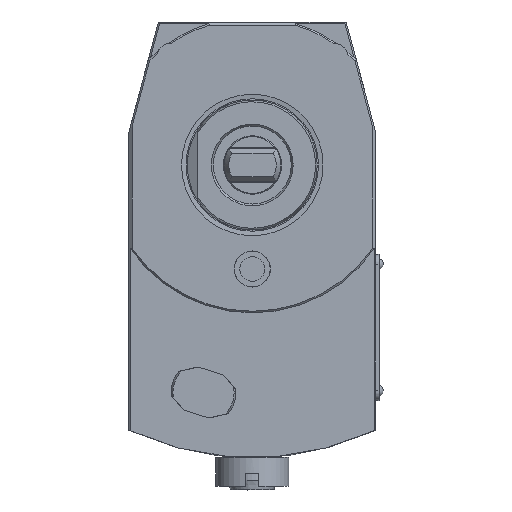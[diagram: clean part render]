
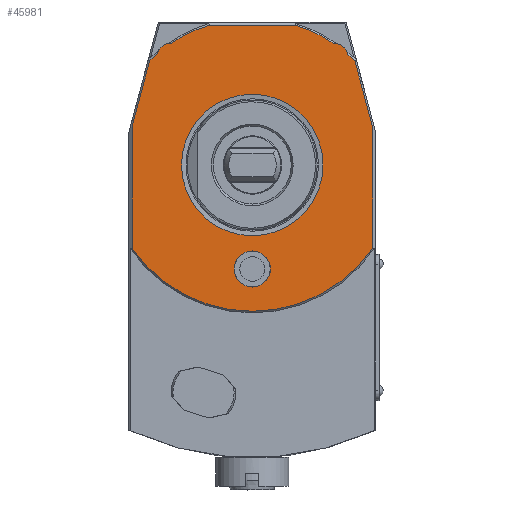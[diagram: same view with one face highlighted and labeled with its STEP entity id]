
A CAD part, left-side view. The second image highlights one B-rep face of the part: STEP entity #45981.
In plain terms, the highlighted planar face has unit normal (-1, 0, 0) as drawn and (0, 1, 0) by its records, which use the part's own axes.
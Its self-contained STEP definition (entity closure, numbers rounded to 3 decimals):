
#19673=PLANE('',#44325);
#20066=CIRCLE('',#44318,45.);
#20069=CIRCLE('',#44323,45.);
#20070=CIRCLE('',#44326,4.5);
#20071=CIRCLE('',#44327,45.);
#20072=CIRCLE('',#44328,4.5);
#20073=CIRCLE('',#44329,45.);
#20074=CIRCLE('',#44330,45.);
#20075=CIRCLE('',#44331,5.55);
#20076=CIRCLE('',#44332,21.765);
#20918=ORIENTED_EDGE('',*,*,#27728,.F.);
#20919=ORIENTED_EDGE('',*,*,#27729,.F.);
#20920=ORIENTED_EDGE('',*,*,#27730,.F.);
#20921=ORIENTED_EDGE('',*,*,#27725,.F.);
#20922=ORIENTED_EDGE('',*,*,#27731,.F.);
#20923=ORIENTED_EDGE('',*,*,#27719,.F.);
#20924=ORIENTED_EDGE('',*,*,#27732,.F.);
#20925=ORIENTED_EDGE('',*,*,#27708,.F.);
#20926=ORIENTED_EDGE('',*,*,#27733,.F.);
#20927=ORIENTED_EDGE('',*,*,#27734,.F.);
#20928=ORIENTED_EDGE('',*,*,#27735,.F.);
#20929=ORIENTED_EDGE('',*,*,#27736,.F.);
#20930=ORIENTED_EDGE('',*,*,#27737,.T.);
#20931=ORIENTED_EDGE('',*,*,#27738,.F.);
#24541=VECTOR('',#31413,1.);
#24550=VECTOR('',#31454,1.);
#24551=VECTOR('',#31457,1.);
#24552=VECTOR('',#31460,1.);
#24553=VECTOR('',#31461,1.);
#25477=LINE('',#35473,#24541);
#25486=LINE('',#35547,#24550);
#25487=LINE('',#35549,#24551);
#25488=LINE('',#35553,#24552);
#25489=LINE('',#35555,#24553);
#26418=VERTEX_POINT('',#35470);
#26419=VERTEX_POINT('',#35472);
#26427=VERTEX_POINT('',#35492);
#26428=VERTEX_POINT('',#35494);
#26432=VERTEX_POINT('',#35521);
#26433=VERTEX_POINT('',#35522);
#26434=VERTEX_POINT('',#35542);
#26435=VERTEX_POINT('',#35543);
#26436=VERTEX_POINT('',#35545);
#26437=VERTEX_POINT('',#35550);
#26438=VERTEX_POINT('',#35552);
#26439=VERTEX_POINT('',#35554);
#26440=VERTEX_POINT('',#35557);
#26441=VERTEX_POINT('',#35559);
#27708=EDGE_CURVE('',#26418,#26419,#25477,.T.);
#27719=EDGE_CURVE('',#26427,#26428,#20066,.T.);
#27725=EDGE_CURVE('',#26432,#26433,#20069,.T.);
#27728=EDGE_CURVE('',#26434,#26435,#20070,.T.);
#27729=EDGE_CURVE('',#26436,#26434,#20071,.T.);
#27730=EDGE_CURVE('',#26433,#26436,#25486,.T.);
#27731=EDGE_CURVE('',#26428,#26432,#20072,.T.);
#27732=EDGE_CURVE('',#26419,#26427,#25487,.T.);
#27733=EDGE_CURVE('',#26437,#26418,#20073,.T.);
#27734=EDGE_CURVE('',#26438,#26437,#25488,.T.);
#27735=EDGE_CURVE('',#26439,#26438,#25489,.T.);
#27736=EDGE_CURVE('',#26435,#26439,#20074,.T.);
#27737=EDGE_CURVE('',#26440,#26440,#20075,.T.);
#27738=EDGE_CURVE('',#26441,#26441,#20076,.T.);
#29539=EDGE_LOOP('',(#20918,#20919,#20920,#20921,#20922,#20923,#20924,#20925,
#20926,#20927,#20928,#20929));
#29540=EDGE_LOOP('',(#20930));
#29541=EDGE_LOOP('',(#20931));
#30405=FACE_BOUND('',#29539,.T.);
#30406=FACE_BOUND('',#29540,.T.);
#30407=FACE_BOUND('',#29541,.T.);
#31413=DIRECTION('',(37.413,0.,0.));
#31432=DIRECTION('',(0.,-1.,0.));
#31433=DIRECTION('',(35.552,0.,27.587));
#31444=DIRECTION('',(0.,-1.,0.));
#31445=DIRECTION('',(36.181,0.,-26.757));
#31448=DIRECTION('',(0.,1.,0.));
#31449=DIRECTION('',(1.,0.,0.));
#31450=DIRECTION('',(0.,-1.,0.));
#31451=DIRECTION('',(-4.5,0.,0.));
#31452=DIRECTION('',(0.,-1.,0.));
#31453=DIRECTION('',(36.181,0.,-26.757));
#31454=DIRECTION('',(0.,0.,26.533));
#31455=DIRECTION('',(0.,-1.,0.));
#31456=DIRECTION('',(-4.5,0.,0.));
#31457=DIRECTION('',(20.268,0.,5.431));
#31458=DIRECTION('',(0.,-1.,0.));
#31459=DIRECTION('',(35.552,0.,27.587));
#31460=DIRECTION('',(-37.413,0.,0.));
#31461=DIRECTION('',(-20.268,0.,5.431));
#31462=DIRECTION('',(0.,-1.,0.));
#31463=DIRECTION('',(35.552,0.,27.587));
#31464=DIRECTION('',(0.,-1.,0.));
#31465=DIRECTION('',(0.,0.,5.55));
#31466=DIRECTION('',(0.,1.,0.));
#31467=DIRECTION('',(0.,0.,21.765));
#35470=CARTESIAN_POINT('',(-25.612,0.,-37.));
#35472=CARTESIAN_POINT('',(11.8,0.,-37.));
#35473=CARTESIAN_POINT('',(-25.612,0.,-37.));
#35492=CARTESIAN_POINT('',(32.069,0.,-31.569));
#35494=CARTESIAN_POINT('',(34.1,0.,-29.364));
#35495=CARTESIAN_POINT('',(0.,0.,
0.));
#35521=CARTESIAN_POINT('',(37.498,0.,-24.877));
#35522=CARTESIAN_POINT('',(43.,0.,-13.266));
#35523=CARTESIAN_POINT('',(0.,0.,
0.));
#35541=CARTESIAN_POINT('',(43.,0.,13.266));
#35542=CARTESIAN_POINT('',(37.498,0.,24.877));
#35543=CARTESIAN_POINT('',(34.1,0.,29.364));
#35544=CARTESIAN_POINT('',(33.,0.,25.));
#35545=CARTESIAN_POINT('',(43.,0.,13.266));
#35546=CARTESIAN_POINT('',(0.,0.,
0.));
#35547=CARTESIAN_POINT('',(43.,0.,-13.266));
#35548=CARTESIAN_POINT('',(33.,0.,-25.));
#35549=CARTESIAN_POINT('',(11.8,0.,-37.));
#35550=CARTESIAN_POINT('',(-25.612,0.,37.));
#35551=CARTESIAN_POINT('',(0.,0.,
0.));
#35552=CARTESIAN_POINT('',(11.8,0.,37.));
#35553=CARTESIAN_POINT('',(11.8,0.,37.));
#35554=CARTESIAN_POINT('',(32.069,0.,31.569));
#35555=CARTESIAN_POINT('',(32.069,0.,31.569));
#35556=CARTESIAN_POINT('',(0.,0.,
0.));
#35557=CARTESIAN_POINT('',(-32.,0.,5.55));
#35558=CARTESIAN_POINT('',(-32.,0.,0.));
#35559=CARTESIAN_POINT('',(0.,0.,
21.765));
#35560=CARTESIAN_POINT('',(0.,0.,
0.));
#44318=AXIS2_PLACEMENT_3D('',#35495,#31432,#31433);
#44323=AXIS2_PLACEMENT_3D('',#35523,#31444,#31445);
#44325=AXIS2_PLACEMENT_3D('',#35541,#31448,#31449);
#44326=AXIS2_PLACEMENT_3D('',#35544,#31450,#31451);
#44327=AXIS2_PLACEMENT_3D('',#35546,#31452,#31453);
#44328=AXIS2_PLACEMENT_3D('',#35548,#31455,#31456);
#44329=AXIS2_PLACEMENT_3D('',#35551,#31458,#31459);
#44330=AXIS2_PLACEMENT_3D('',#35556,#31462,#31463);
#44331=AXIS2_PLACEMENT_3D('',#35558,#31464,#31465);
#44332=AXIS2_PLACEMENT_3D('',#35560,#31466,#31467);
#45981=ADVANCED_FACE('',(#30405,#30406,#30407),#19673,.T.);
